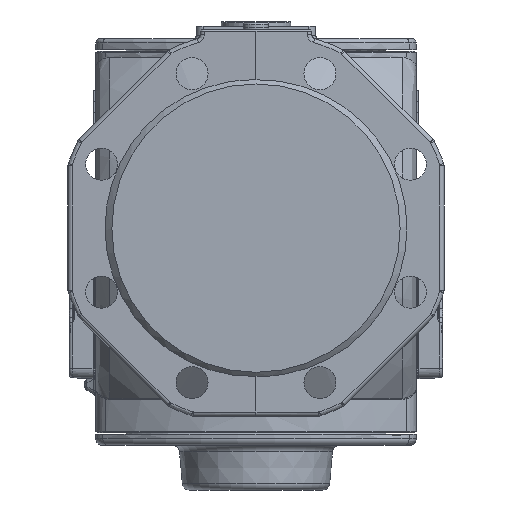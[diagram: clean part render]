
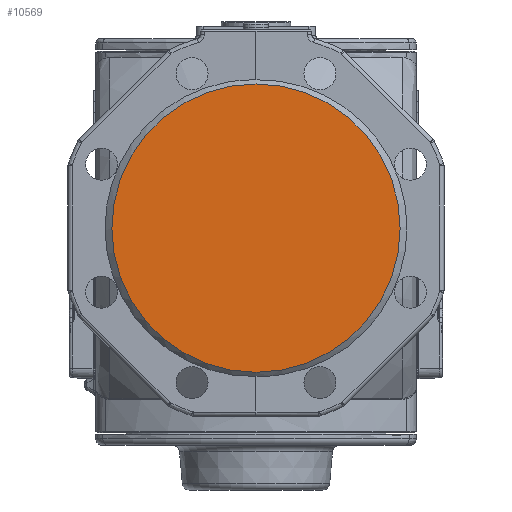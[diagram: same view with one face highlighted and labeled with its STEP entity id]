
A CAD part, left-side view. The second image highlights one B-rep face of the part: STEP entity #10569.
In plain terms, the highlighted planar face has unit normal (-1, 0, 0).
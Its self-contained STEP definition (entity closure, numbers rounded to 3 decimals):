
#597=PLANE('',#48173);
#10569=ADVANCED_FACE('',(#13855),#597,.F.);
#13855=FACE_OUTER_BOUND('',#16337,.T.);
#16337=EDGE_LOOP('',(#23915));
#19812=CIRCLE('',#48171,103.5);
#23915=ORIENTED_EDGE('',*,*,#40358,.T.);
#35559=VERTEX_POINT('',#71632);
#40358=EDGE_CURVE('',#35559,#35559,#19812,.T.);
#48171=AXIS2_PLACEMENT_3D('',#71631,#54671,#54672);
#48173=AXIS2_PLACEMENT_3D('',#71634,#54675,#54676);
#54671=DIRECTION('',(-1.,0.,0.));
#54672=DIRECTION('',(0.,0.,1.));
#54675=DIRECTION('',(1.,0.,0.));
#54676=DIRECTION('',(0.,0.,-1.));
#71631=CARTESIAN_POINT('',(-240.,-1.,-1.));
#71632=CARTESIAN_POINT('',(-240.,-1.,102.5));
#71634=CARTESIAN_POINT('',(-240.,-1.,-1.));
